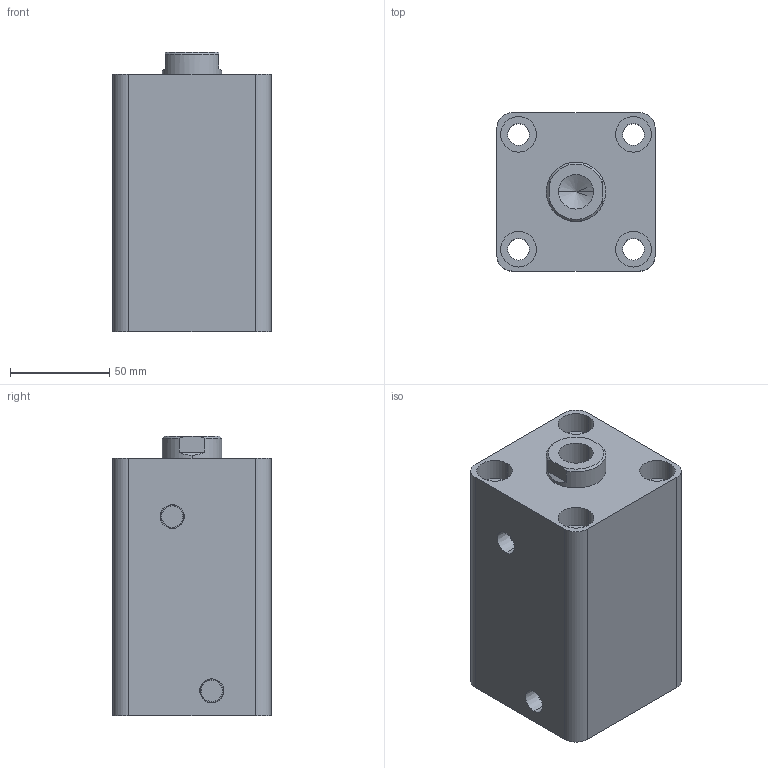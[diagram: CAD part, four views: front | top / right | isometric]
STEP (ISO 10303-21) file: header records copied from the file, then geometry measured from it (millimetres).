
FILE_DESCRIPTION (( 'STEP AP203' ), '1' );
FILE_NAME ('HTB-SD50-70N.STEP', '2019-10-07T07:12:05', ( '微软用户' ), ( '微软中国' ), 'SwSTEP 2.0', 'SolidWorks 2012', '' );
FILE_SCHEMA (( 'CONFIG_CONTROL_DESIGN' ));
Length unit declared in the file: millimetre
Products named in the file (3): HTB-SD50-70N; HTB-SD50-70N活塞杆; HTB-SD50-70掛极
Assembly tree (2 placements, depth 2):
  HTB-SD50-70N
    HTB-SD50-70掛极
    HTB-SD50-70N活塞杆
Bounding box: 80 x 80 x 141 mm (x, y, z)
Volume: 672125.2 mm3; surface area: 110684.6 mm2
Topology: 2 solids, 2 shells, 83 faces, 184 edges, 119 vertices
Faces by surface type: cylinder 42, plane 27, cone 8, torus 6
Entity records: 2655 total; most frequent: DIRECTION 456, CARTESIAN_POINT 417, ORIENTED_EDGE 364, AXIS2_PLACEMENT_3D 194, EDGE_CURVE 182, VERTEX_POINT 119, EDGE_LOOP 107, CIRCLE 106
